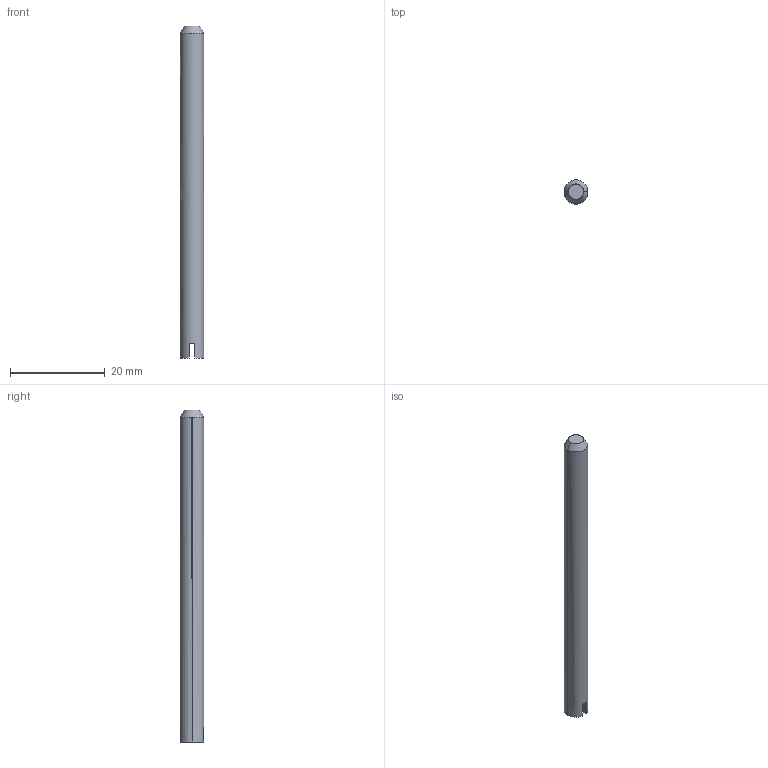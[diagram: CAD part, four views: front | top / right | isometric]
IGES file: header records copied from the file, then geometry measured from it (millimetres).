
Start section: SolidWorks IGES FILE using analytic representation for surfaces
Global section: file name: C:\Documents and Settings\lecoutey\Bureau\GR 2003\2003.100.10.IGS; native system: SolidWorks 2004 by SolidWorks Corporation; preprocessor: Version 5.3; author: lecoutey; date: 050405.093806; units: millimetre
Bounding box: 5 x 5 x 70 mm (x, y, z)
Surface area: 1148.4 mm2 (no closed solid volume)
Topology: 0 solids, 0 shells, 10 faces, 104 edges, 104 vertices
Faces by surface type: bspline 6, revolution 4
